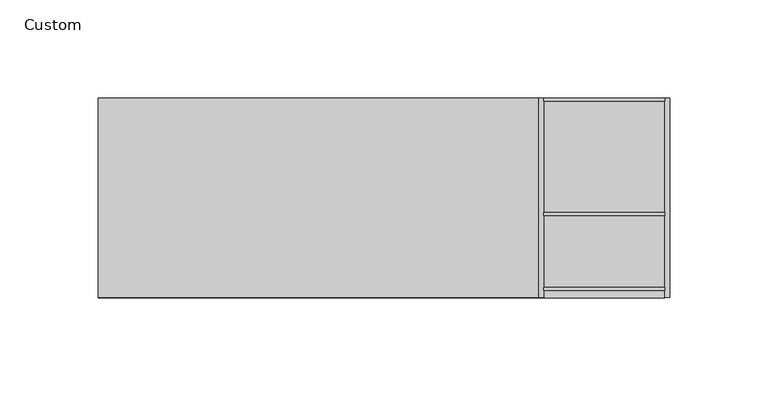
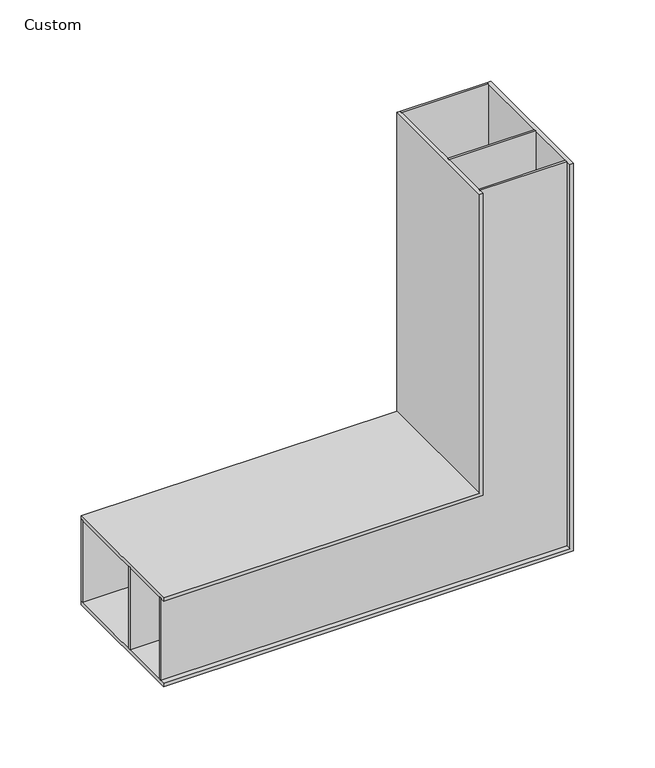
"""IFC4 building model written with IfcOpenShell, lengths in millimetres: light fixture geometry, Lighting-Wall-Betacalco-Block-Corner-Inside : Custom."""

from ifc_helpers import new_model, si_unit, frame, origin, place, context, project, spatial, polyline, outline, extrude, source, transform, mapped, element, save


def custom_e916104d(model_context):
    return source(origin(), model_context, "Body", "SweptSolid", [
        extrude(outline(polyline([(78.1248438, -304.8), (16.5298437, -304.8), (16.5298437, -16.5298437), (304.8, -16.5298437), (304.8, -78.1248438), (78.1248438, -78.1248438), (78.1248438, -304.8)])), frame((0.0, 100.0125, 0.0), z_axis=(0.0, 1.0, 0.0), x_axis=(0.0, 0.0, 1.0)), (0.0, 0.0, 1.0), 1.5875),
        extrude(outline(polyline([(78.1248438, -304.8), (16.5298437, -304.8), (16.5298437, -16.5298437), (304.8, -16.5298437), (304.8, -78.1248438), (78.1248438, -78.1248438), (78.1248438, -304.8)])), frame((0.0, 41.752587, 0.0), z_axis=(0.0, 1.0, 0.0), x_axis=(0.0, 0.0, 1.0)), (0.0, 0.0, 1.0), 1.5875),
        extrude(outline(polyline([(78.1248438, -304.8), (16.5298437, -304.8), (16.5298437, -16.5298437), (304.8, -16.5298437), (304.8, -78.1248438), (78.1248438, -78.1248438), (78.1248438, -304.8)])), frame((0.0, 3.7029412, 0.0), z_axis=(0.0, 1.0, 0.0), x_axis=(0.0, 0.0, 1.0)), (0.0, 0.0, 1.0), 1.5875),
        extrude(outline(polyline([(80.6648437, -304.8), (78.1248438, -304.8), (78.1248438, -78.1248438), (304.8, -78.1248438), (304.8, -80.6648437), (80.6648437, -80.6648437), (80.6648437, -304.8)])), frame((0.0, 0.0, 0.0), z_axis=(0.0, 1.0, 0.0), x_axis=(0.0, 0.0, 1.0)), (0.0, 0.0, 1.0), 101.6),
        extrude(outline(polyline([(16.5298437, -304.8), (13.9898437, -304.8), (13.9898437, -13.9898437), (304.8, -13.9898437), (304.8, -16.5298437), (16.5298437, -16.5298437), (16.5298437, -304.8)])), frame((0.0, 0.0, 0.0), z_axis=(0.0, 1.0, 0.0), x_axis=(0.0, 0.0, 1.0)), (0.0, 0.0, 1.0), 101.6),
    ])


if __name__ == "__main__":
    model = new_model("IFC4")
    model_context = context("Model", 3, world=origin())
    ifc_project = project(units=[si_unit("LENGTHUNIT", "METRE", prefix="MILLI")], contexts=[model_context])
    site = spatial("IfcSite", under=ifc_project)
    building = spatial("IfcBuilding", under=site)
    placement = place(None, origin())
    custom_shape = custom_e916104d(model_context)
    element("IfcLightFixture", 1, ObjectType="Lighting-Wall-Betacalco-Block-Corner-Inside : Custom", at=placement, inside=building, context=model_context, shape_type="MappedRepresentation", body=[
        mapped(custom_shape, transform((0.0, 0.0, 0.0), x_axis=(1.0, 0.0, 0.0), y_axis=(0.0, 1.0, 0.0), z_axis=(0.0, 0.0, 1.0))),
    ])
    save(model, "model.ifc")
